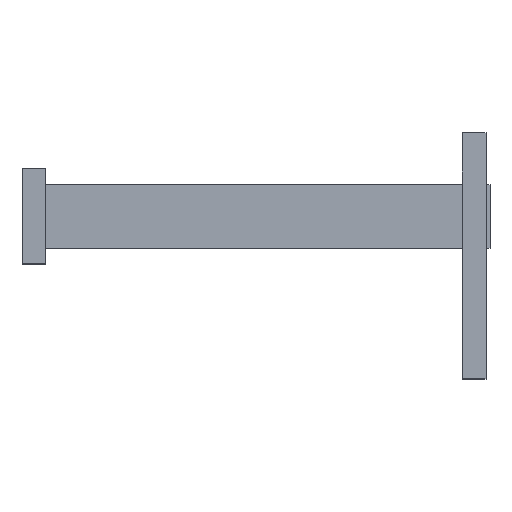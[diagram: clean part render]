
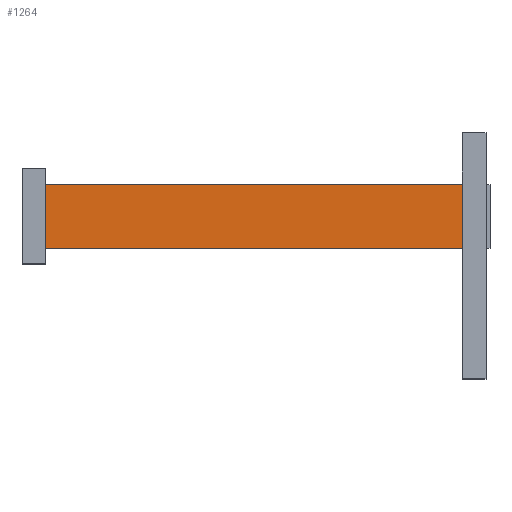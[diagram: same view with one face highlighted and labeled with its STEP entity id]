
A CAD part, top view. The second image highlights one B-rep face of the part: STEP entity #1264.
In plain terms, the highlighted planar face has unit normal (0, 0, 1).
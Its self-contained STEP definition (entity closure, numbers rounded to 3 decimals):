
#184 = PLANE('',#185);
#185 = AXIS2_PLACEMENT_3D('',#186,#187,#188);
#186 = CARTESIAN_POINT('',(-52.,36.,200.));
#187 = DIRECTION('',(0.,1.,0.));
#188 = DIRECTION('',(0.,0.,1.));
#238 = PLANE('',#239);
#239 = AXIS2_PLACEMENT_3D('',#240,#241,#242);
#240 = CARTESIAN_POINT('',(-52.,20.,200.));
#241 = DIRECTION('',(0.,1.,0.));
#242 = DIRECTION('',(0.,0.,1.));
#433 = VERTEX_POINT('',#434);
#434 = CARTESIAN_POINT('',(59.,20.,205.));
#448 = PLANE('',#449);
#449 = AXIS2_PLACEMENT_3D('',#450,#451,#452);
#450 = CARTESIAN_POINT('',(59.,-13.,204.));
#451 = DIRECTION('',(1.,0.,0.));
#452 = DIRECTION('',(0.,0.,1.));
#460 = EDGE_CURVE('',#461,#433,#463,.T.);
#461 = VERTEX_POINT('',#462);
#462 = CARTESIAN_POINT('',(-46.,20.,205.));
#463 = SURFACE_CURVE('',#464,(#468,#475),.PCURVE_S1.);
#464 = LINE('',#465,#466);
#465 = CARTESIAN_POINT('',(-52.,20.,205.));
#466 = VECTOR('',#467,1.);
#467 = DIRECTION('',(1.,0.,0.));
#468 = PCURVE('',#238,#469);
#469 = DEFINITIONAL_REPRESENTATION('',(#470),#474);
#470 = LINE('',#471,#472);
#471 = CARTESIAN_POINT('',(5.,0.));
#472 = VECTOR('',#473,1.);
#473 = DIRECTION('',(0.,1.));
#474 = ( GEOMETRIC_REPRESENTATION_CONTEXT(2) 
PARAMETRIC_REPRESENTATION_CONTEXT() REPRESENTATION_CONTEXT('2D SPACE',''
  ) );
#475 = PCURVE('',#476,#481);
#476 = PLANE('',#477);
#477 = AXIS2_PLACEMENT_3D('',#478,#479,#480);
#478 = CARTESIAN_POINT('',(-52.,20.,205.));
#479 = DIRECTION('',(0.,0.,1.));
#480 = DIRECTION('',(1.,0.,0.));
#481 = DEFINITIONAL_REPRESENTATION('',(#482),#486);
#482 = LINE('',#483,#484);
#483 = CARTESIAN_POINT('',(0.,0.));
#484 = VECTOR('',#485,1.);
#485 = DIRECTION('',(1.,0.));
#486 = ( GEOMETRIC_REPRESENTATION_CONTEXT(2) 
PARAMETRIC_REPRESENTATION_CONTEXT() REPRESENTATION_CONTEXT('2D SPACE',''
  ) );
#504 = PLANE('',#505);
#505 = AXIS2_PLACEMENT_3D('',#506,#507,#508);
#506 = CARTESIAN_POINT('',(-46.,16.,204.));
#507 = DIRECTION('',(1.,0.,0.));
#508 = DIRECTION('',(0.,0.,1.));
#737 = VERTEX_POINT('',#738);
#738 = CARTESIAN_POINT('',(-46.,36.,205.));
#759 = EDGE_CURVE('',#737,#760,#762,.T.);
#760 = VERTEX_POINT('',#761);
#761 = CARTESIAN_POINT('',(59.,36.,205.));
#762 = SURFACE_CURVE('',#763,(#767,#774),.PCURVE_S1.);
#763 = LINE('',#764,#765);
#764 = CARTESIAN_POINT('',(-52.,36.,205.));
#765 = VECTOR('',#766,1.);
#766 = DIRECTION('',(1.,0.,0.));
#767 = PCURVE('',#184,#768);
#768 = DEFINITIONAL_REPRESENTATION('',(#769),#773);
#769 = LINE('',#770,#771);
#770 = CARTESIAN_POINT('',(5.,0.));
#771 = VECTOR('',#772,1.);
#772 = DIRECTION('',(0.,1.));
#773 = ( GEOMETRIC_REPRESENTATION_CONTEXT(2) 
PARAMETRIC_REPRESENTATION_CONTEXT() REPRESENTATION_CONTEXT('2D SPACE',''
  ) );
#774 = PCURVE('',#476,#775);
#775 = DEFINITIONAL_REPRESENTATION('',(#776),#780);
#776 = LINE('',#777,#778);
#777 = CARTESIAN_POINT('',(0.,16.));
#778 = VECTOR('',#779,1.);
#779 = DIRECTION('',(1.,0.));
#780 = ( GEOMETRIC_REPRESENTATION_CONTEXT(2) 
PARAMETRIC_REPRESENTATION_CONTEXT() REPRESENTATION_CONTEXT('2D SPACE',''
  ) );
#1232 = EDGE_CURVE('',#737,#461,#1233,.T.);
#1233 = SURFACE_CURVE('',#1234,(#1238,#1245),.PCURVE_S1.);
#1234 = LINE('',#1235,#1236);
#1235 = CARTESIAN_POINT('',(-46.,16.,205.));
#1236 = VECTOR('',#1237,1.);
#1237 = DIRECTION('',(0.,-1.,0.));
#1238 = PCURVE('',#504,#1239);
#1239 = DEFINITIONAL_REPRESENTATION('',(#1240),#1244);
#1240 = LINE('',#1241,#1242);
#1241 = CARTESIAN_POINT('',(1.,0.));
#1242 = VECTOR('',#1243,1.);
#1243 = DIRECTION('',(0.,1.));
#1244 = ( GEOMETRIC_REPRESENTATION_CONTEXT(2) 
PARAMETRIC_REPRESENTATION_CONTEXT() REPRESENTATION_CONTEXT('2D SPACE',''
  ) );
#1245 = PCURVE('',#476,#1246);
#1246 = DEFINITIONAL_REPRESENTATION('',(#1247),#1251);
#1247 = LINE('',#1248,#1249);
#1248 = CARTESIAN_POINT('',(6.,-4.));
#1249 = VECTOR('',#1250,1.);
#1250 = DIRECTION('',(0.,-1.));
#1251 = ( GEOMETRIC_REPRESENTATION_CONTEXT(2) 
PARAMETRIC_REPRESENTATION_CONTEXT() REPRESENTATION_CONTEXT('2D SPACE',''
  ) );
#1264 = ADVANCED_FACE('',(#1265),#476,.T.);
#1265 = FACE_BOUND('',#1266,.T.);
#1266 = EDGE_LOOP('',(#1267,#1268,#1269,#1270));
#1267 = ORIENTED_EDGE('',*,*,#759,.F.);
#1268 = ORIENTED_EDGE('',*,*,#1232,.T.);
#1269 = ORIENTED_EDGE('',*,*,#460,.T.);
#1270 = ORIENTED_EDGE('',*,*,#1271,.T.);
#1271 = EDGE_CURVE('',#433,#760,#1272,.T.);
#1272 = SURFACE_CURVE('',#1273,(#1277,#1284),.PCURVE_S1.);
#1273 = LINE('',#1274,#1275);
#1274 = CARTESIAN_POINT('',(59.,20.,205.));
#1275 = VECTOR('',#1276,1.);
#1276 = DIRECTION('',(0.,1.,0.));
#1277 = PCURVE('',#476,#1278);
#1278 = DEFINITIONAL_REPRESENTATION('',(#1279),#1283);
#1279 = LINE('',#1280,#1281);
#1280 = CARTESIAN_POINT('',(111.,0.));
#1281 = VECTOR('',#1282,1.);
#1282 = DIRECTION('',(0.,1.));
#1283 = ( GEOMETRIC_REPRESENTATION_CONTEXT(2) 
PARAMETRIC_REPRESENTATION_CONTEXT() REPRESENTATION_CONTEXT('2D SPACE',''
  ) );
#1284 = PCURVE('',#448,#1285);
#1285 = DEFINITIONAL_REPRESENTATION('',(#1286),#1290);
#1286 = LINE('',#1287,#1288);
#1287 = CARTESIAN_POINT('',(1.,-33.));
#1288 = VECTOR('',#1289,1.);
#1289 = DIRECTION('',(0.,-1.));
#1290 = ( GEOMETRIC_REPRESENTATION_CONTEXT(2) 
PARAMETRIC_REPRESENTATION_CONTEXT() REPRESENTATION_CONTEXT('2D SPACE',''
  ) );
